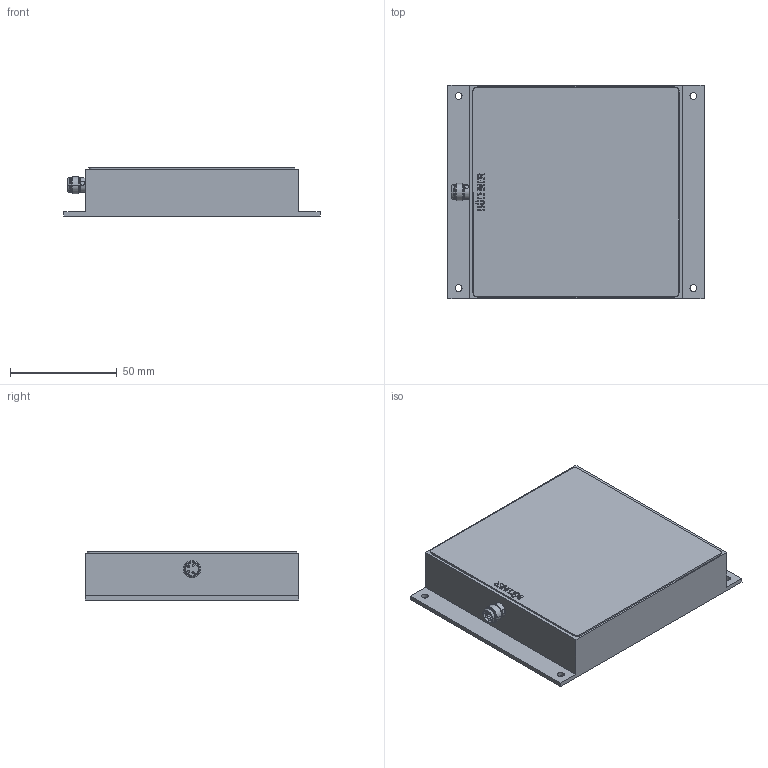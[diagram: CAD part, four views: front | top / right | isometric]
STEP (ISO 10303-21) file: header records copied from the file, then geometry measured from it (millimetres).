
FILE_DESCRIPTION(('STEP AP214'),'1');
FILE_NAME('Z:/Projekte Hr. Wünsch/SpaceClaim/HL-X/TL-HL-X-Kundendatei.stp','2014-07-18T12:41:13',(' '),(' '),'Spatial InterOp 3D',' ',' ');
FILE_SCHEMA(('automotive_design'));
Length unit declared in the file: metre
Products named in the file (1): 1
Bounding box: 120 x 100 x 22.55 mm (x, y, z)
Volume: 228959.7 mm3; surface area: 35204.8 mm2
Topology: 1 solids, 3 shells, 259 faces, 667 edges, 434 vertices
Faces by surface type: plane 109, cylinder 88, extrusion 48, cone 10, sphere 4
Entity records: 10846 total; most frequent: CARTESIAN_POINT 2567, ORIENTED_EDGE 1318, DIRECTION 1163, EDGE_CURVE 659, VERTEX_POINT 434, VECTOR 399, AXIS2_PLACEMENT_3D 382, LINE 351
